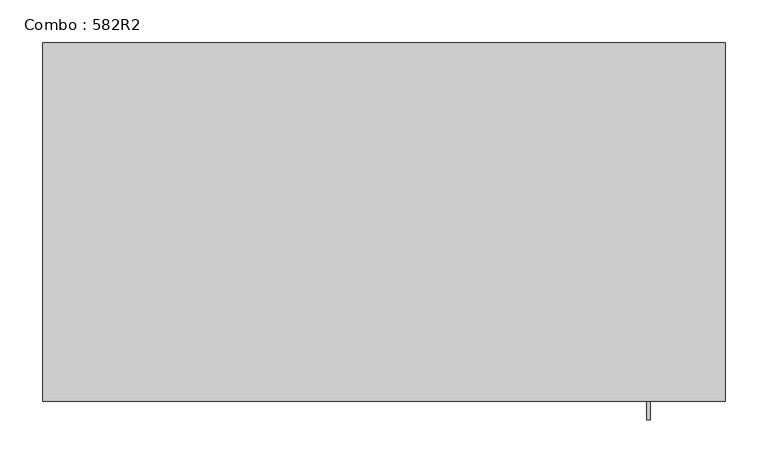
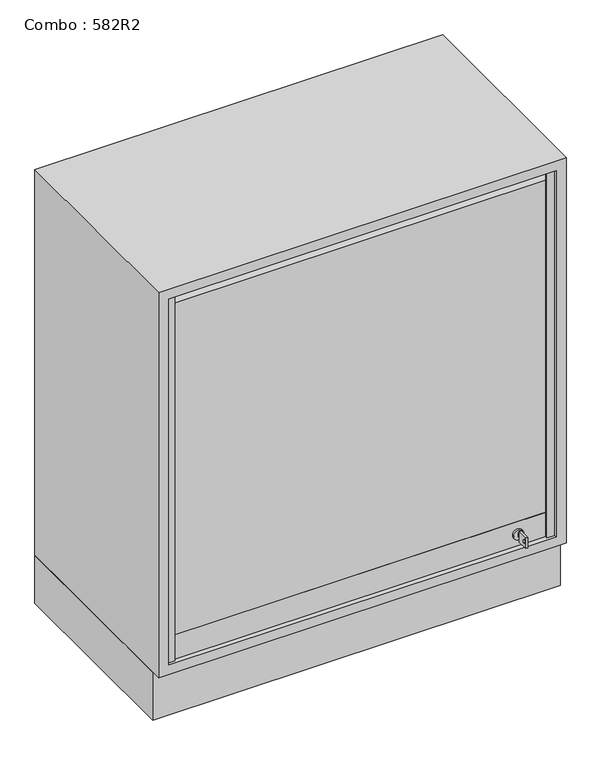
"""IFC4 building model written with IfcOpenShell, lengths in millimetres: furniture geometry, Combo : 582R2."""

from ifc_helpers import new_model, si_unit, point, frame, frame_2d, origin, origin_with_axes, place, context, project, spatial, polyline, circle_curve, trimmed, segment, composite_curve, outline, extrude, faceted_brep, source, transform, mapped, element, save


def combo_582r2_b9b0f654(model_context):
    return source(origin(), model_context, "Body", "SolidModel", [
        extrude(outline(polyline([(-400.0, -400.0), (-400.0, 0.0), (400.0, 0.0), (400.0, -400.0), (-400.0, -400.0)])), origin_with_axes(), (0.0, 0.0, 1.0), 100.0),
        extrude(outline(composite_curve([segment(trimmed(circle_curve(frame_2d((145.0, 310.0)), 10.0), [point((145.0, 300.0))], [point((145.0, 320.0))], False, "CARTESIAN"), True, "CONTINUOUS"), segment(trimmed(circle_curve(frame_2d((145.0, 310.0)), 10.0), [point((145.0, 320.0))], [point((145.0, 300.0))], False, "CARTESIAN"), True, "CONTINUOUS")], self_intersect=False)), frame((0.0, -414.0, 0.0), z_axis=(0.0, 1.0, 0.0), x_axis=(0.0, 0.0, 1.0)), (0.0, 0.0, 1.0), 4.0),
        extrude(outline(polyline([(-442.0, 134.014113), (-442.0, 156.0), (-420.0, 156.0), (-420.0, 134.014113), (-442.0, 134.014113)]), holes=[composite_curve([segment(trimmed(circle_curve(frame_2d((-435.75, 145.0070565)), 3.2230706), [point((-435.75, 148.2301271))], [point((-435.75, 141.7839859))], True, "CARTESIAN"), True, "CONTINUOUS"), segment(trimmed(circle_curve(frame_2d((-435.75, 145.0070565)), 3.2230706), [point((-435.75, 141.7839859))], [point((-435.75, 148.2301271))], True, "CARTESIAN"), True, "CONTINUOUS")], self_intersect=False)]), frame((308.0, 0.0, 0.0), z_axis=(1.0, 0.0, 0.0), x_axis=(0.0, 1.0, 0.0)), (0.0, 0.0, 1.0), 4.0416064),
        extrude(outline(polyline([(311.0416064, -420.0), (309.0, -420.0), (309.0, -414.0), (311.0416064, -414.0), (311.0416064, -420.0)])), frame((0.0, 0.0, 141.014113), z_axis=(0.0, 0.0, 1.0), x_axis=(1.0, 0.0, 0.0)), (0.0, 0.0, 1.0), 7.985887),
        extrude(outline(polyline([(380.0, -400.0), (380.0, -410.0), (-380.0, -410.0), (-380.0, -400.0), (380.0, -400.0)])), frame((0.0, 0.0, 120.0), z_axis=(0.0, 0.0, 1.0), x_axis=(1.0, 0.0, 0.0)), (0.0, 0.0, 1.0), 50.0),
        extrude(outline(polyline([(-365.0, -415.0), (-380.0, -415.0), (-380.0, -410.0), (-365.0, -410.0), (-365.0, -415.0)])), frame((0.0, 0.0, 120.0), z_axis=(0.0, 0.0, 1.0), x_axis=(1.0, 0.0, 0.0)), (0.0, 0.0, 1.0), 760.0),
        extrude(outline(polyline([(380.0, -415.0), (365.0, -415.0), (365.0, -410.0), (380.0, -410.0), (380.0, -415.0)])), frame((0.0, 0.0, 120.0), z_axis=(0.0, 0.0, 1.0), x_axis=(1.0, 0.0, 0.0)), (0.0, 0.0, 1.0), 760.0),
        extrude(outline(composite_curve([segment(trimmed(circle_curve(frame_2d((-390.0, 859.0)), 20.0), [point((-410.0, 859.0))], [point((-390.0, 879.0))], False, "CARTESIAN"), True, "CONTINUOUS"), segment(polyline([(-390.0, 879.0), (-360.0, 879.0), (-360.0, 869.0), (-390.0, 869.0)]), True, "CONTINUOUS"), segment(trimmed(circle_curve(frame_2d((-390.0, 859.0)), 10.0), [point((-390.0, 869.0))], [point((-400.0, 859.0))], True, "CARTESIAN"), True, "CONTINUOUS"), segment(polyline([(-400.0, 859.0), (-400.0, 170.0), (-410.0, 170.0), (-410.0, 859.0)]), True, "CONTINUOUS")], self_intersect=False)), frame((-380.0, 0.0, 0.0), z_axis=(1.0, 0.0, 0.0), x_axis=(0.0, 1.0, 0.0)), (0.0, 0.0, 1.0), 760.0),
        faceted_brep([(400.0, 0.0, 900.0), (-400.0, 0.0, 900.0), (-400.0, -420.0, 900.0), (400.0, -420.0, 900.0), (-400.0, 0.0, 100.0), (400.0, 0.0, 100.0), (400.0, -420.0, 100.0), (-400.0, -420.0, 100.0), (380.0, -420.0, 880.0), (380.0, -420.0, 120.0), (-380.0, -420.0, 120.0), (-380.0, -420.0, 880.0), (380.0, -20.0, 120.0), (380.0, -20.0, 880.0), (-380.0, -20.0, 880.0), (-380.0, -20.0, 120.0)], [[[0, 1, 2, 3]], [[4, 5, 6, 7]], [[1, 0, 5, 4]], [[2, 1, 4, 7]], [[3, 2, 7, 6], [8, 9, 10, 11]], [[0, 3, 6, 5]], [[12, 13, 14, 15]], [[13, 12, 9, 8]], [[15, 14, 11, 10]], [[14, 13, 8, 11]], [[12, 15, 10, 9]]]),
    ])


if __name__ == "__main__":
    model = new_model("IFC4")
    model_context = context("Model", 3, world=origin())
    ifc_project = project(units=[si_unit("LENGTHUNIT", "METRE", prefix="MILLI")], contexts=[model_context])
    site = spatial("IfcSite", under=ifc_project)
    building = spatial("IfcBuilding", under=site)
    placement = place(None, origin())
    combo_582r2_shape = combo_582r2_b9b0f654(model_context)
    element("IfcFurniture", 1, ObjectType="Combo : 582R2", at=placement, inside=building, context=model_context, shape_type="MappedRepresentation", body=[
        mapped(combo_582r2_shape, transform((0.0, 0.0, 0.0), x_axis=(1.0, 0.0, 0.0), y_axis=(0.0, 1.0, 0.0), z_axis=(0.0, 0.0, 1.0))),
    ])
    save(model, "model.ifc")
